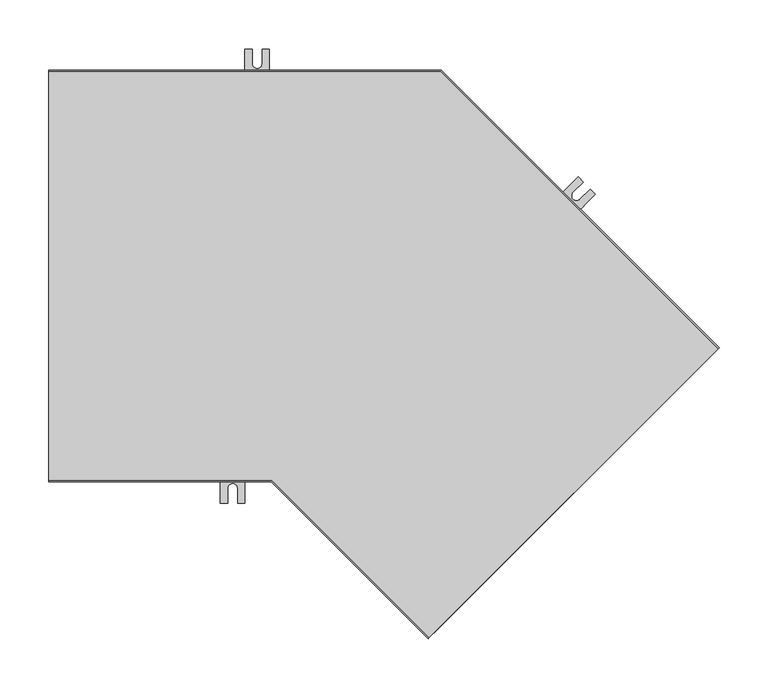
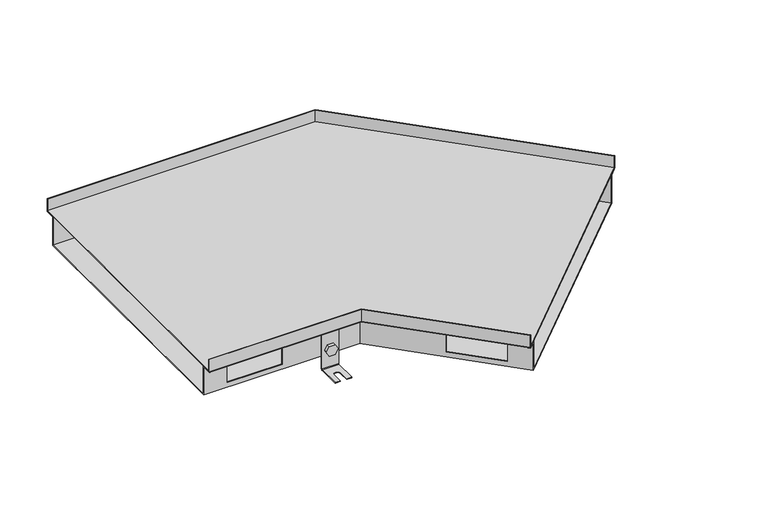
"""IFC4 building model written with IfcOpenShell, lengths in millimetres: proxy geometry, TECHNO_Угловой элемент_KVU : 420_065_135°."""

from ifc_helpers import new_model, si_unit, point, frame, frame_2d, origin, place, context, project, spatial, polyline, circle_curve, ellipse_curve, trimmed, segment, composite_curve, outline, extrude, source, transform, mapped, element, save
from ifc_brep_helpers import plane_surface, cylinder_surface, revolved_surface, advanced_brep


def mechanical_equipment_7196e186(model_context):
    return source(origin(), model_context, "Body", "SolidModel", [
        extrude(outline(composite_curve([segment(trimmed(circle_curve(frame_2d((0.0, -7.4999999)), 7.5), [point((0.0, -15.0))], [point((0.0, 0.0))], False, "CARTESIAN"), True, "CONTINUOUS"), segment(trimmed(circle_curve(frame_2d((0.0, -7.4999999)), 7.5), [point((0.0, 0.0))], [point((0.0, -15.0))], False, "CARTESIAN"), True, "CONTINUOUS")], self_intersect=False)), frame((475.1997654, -27.3757464, -55.5), z_axis=(0.7071067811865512, 0.7071067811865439, 0.0), x_axis=(0.0, 0.0, 1.0)), (0.0, 0.0, 1.0), 1.5),
        extrude(outline(polyline([(0.0, 0.0), (8.6602541, 0.0), (12.9903811, -7.5), (8.6602541, -15.0), (0.0, -15.0), (-4.330127, -7.5), (0.0, 0.0)])), frame((459.3179675, -20.4034939, -55.5), z_axis=(0.7071067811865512, 0.7071067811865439, 0.0), x_axis=(0.35355339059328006, -0.3535533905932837, -0.866025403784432)), (0.0, 0.0, 1.0), 5.1),
        advanced_brep(
        [(477.8867712, -31.7598085, -20.5), (477.8867712, -31.7598085, -83.5), (477.3210858, -32.3254939, -84.3), (453.986562, -55.6600177, -84.3), (453.986562, -55.6600177, -85.5), (477.3210858, -32.3254939, -85.5), (478.7352993, -30.9112804, -83.5), (478.7352993, -30.9112804, -20.5), (460.2091017, -14.082139, -20.5), (461.0576298, -13.2336108, -20.5), (461.0576298, -13.2336108, -83.5), (459.6434162, -14.6478244, -85.5), (436.3088924, -37.9823482, -85.5), (436.3088924, -37.9823482, -84.3), (459.6434162, -14.6478244, -84.3), (460.2091017, -14.082139, -83.5), (441.6121933, -43.285649, -84.3), (452.218795, -32.6790473, -84.3), (459.2898628, -39.7501151, -84.3), (448.6832611, -50.3567168, -84.3), (448.6832611, -50.3567168, -85.5), (441.6121933, -43.285649, -85.5), (459.2898628, -39.7501151, -85.5), (452.218795, -32.6790473, -85.5)],
        [
            (0, 1),
            (1, 2, circle_curve(frame((477.3210858, -32.3254939, -83.5), z_axis=(-0.7071067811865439, 0.7071067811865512, 0.0), x_axis=(-0.7071067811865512, -0.7071067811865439, 0.0)), 0.8)),
            (2, 3),
            (3, 4),
            (4, 5),
            (5, 6, circle_curve(frame((477.3210858, -32.3254939, -83.5), z_axis=(0.7071067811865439, -0.7071067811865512, 0.0), x_axis=(-0.7071067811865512, -0.7071067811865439, 0.0)), 2.0)),
            (6, 7),
            (7, 0),
            (8, 9),
            (9, 10),
            (10, 11, circle_curve(frame((459.6434162, -14.6478244, -83.5), z_axis=(-0.7071067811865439, 0.7071067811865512, 0.0), x_axis=(-0.7071067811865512, -0.7071067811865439, 0.0)), 2.0)),
            (11, 12),
            (12, 13),
            (13, 14),
            (14, 15, circle_curve(frame((459.6434162, -14.6478244, -83.5), z_axis=(0.7071067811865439, -0.7071067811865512, 0.0), x_axis=(-0.7071067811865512, -0.7071067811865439, 0.0)), 0.8)),
            (15, 8),
            (0, 8),
            (15, 1),
            (14, 2),
            (13, 16),
            (16, 17),
            (17, 18, circle_curve(frame((455.7543289, -36.2145812, -84.3), z_axis=(0.0, 0.0, -1.0), x_axis=(0.7071067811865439, -0.7071067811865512, 0.0)), 5.0)),
            (18, 19),
            (19, 3),
            (19, 20),
            (20, 4),
            (12, 21),
            (21, 16),
            (20, 22),
            (22, 23, circle_curve(frame((455.7543289, -36.2145812, -85.5), z_axis=(0.0, 0.0, 1.0), x_axis=(0.7071067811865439, -0.7071067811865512, 0.0)), 5.0)),
            (23, 21),
            (11, 5),
            (10, 6),
            (9, 7),
            (23, 17),
            (18, 22),
        ],
        [
            plane_surface(frame((477.8867712, -31.7598085, -20.5), z_axis=(0.7071067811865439, -0.7071067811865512, 0.0), x_axis=(0.0, 0.0, -1.0))),
            plane_surface(frame((460.2091017, -14.082139, -20.5), z_axis=(-0.7071067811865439, 0.7071067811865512, 0.0), x_axis=(0.0, 0.0, 1.0))),
            plane_surface(frame((477.8867712, -31.7598085, -20.5), z_axis=(-0.7071067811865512, -0.7071067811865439, 0.0), x_axis=(-0.7071067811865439, 0.7071067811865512, 0.0))),
            revolved_surface(polyline([(459.0777307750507, -15.213509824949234, -83.5), (476.75540032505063, -32.89117937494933, -83.5)]), (459.6434162, -14.6478244, -83.5), (-0.7071067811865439, 0.7071067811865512, 0.0)),
            plane_surface(frame((477.3210858, -32.3254939, -84.3), z_axis=(0.0, 0.0, 1.0), x_axis=(-0.7071067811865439, 0.7071067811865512, 0.0))),
            plane_surface(frame((453.986562, -55.6600177, -84.3), z_axis=(-0.7071067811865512, -0.7071067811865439, 0.0), x_axis=(-0.7071067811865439, 0.7071067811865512, 0.0))),
            plane_surface(frame((453.986562, -55.6600177, -85.5), z_axis=(0.0, 0.0, -1.0), x_axis=(-0.7071067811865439, 0.7071067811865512, 0.0))),
            cylinder_surface(frame((459.6434162, -14.6478244, -83.5), z_axis=(0.7071067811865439, -0.7071067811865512, 0.0), x_axis=(-0.7071067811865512, -0.7071067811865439, 0.0)), 2.0),
            plane_surface(frame((478.7352993, -30.9112804, -83.5), z_axis=(0.7071067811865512, 0.7071067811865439, 0.0), x_axis=(-0.7071067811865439, 0.7071067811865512, 0.0))),
            plane_surface(frame((478.7352993, -30.9112804, -20.5), z_axis=(0.0, 0.0, 1.0), x_axis=(-0.7071067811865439, 0.7071067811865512, 0.0))),
            plane_surface(frame((452.218795, -32.6790473, -84.3), z_axis=(0.7071067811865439, -0.7071067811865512, 0.0), x_axis=(0.0, 0.0, -1.0))),
            plane_surface(frame((448.6832611, -50.3567168, -84.3), z_axis=(-0.707106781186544, 0.7071067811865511, 0.0), x_axis=(0.0, 0.0, -1.0))),
            revolved_surface(polyline([(459.2898628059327, -39.75011510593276, -84.3), (459.2898628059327, -39.75011510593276, -85.5)]), (455.7543289, -36.2145812, -85.5), (0.0, 0.0, 1.0)),
        ],
        [
            (0, [[1, 2, 3, 4, 5, 6, 7, 8]]),
            (1, [[9, 10, 11, 12, 13, 14, 15, 16]]),
            (2, [[-1, 17, -16, 18]]),
            (3, [[-2, -18, -15, 19]]),
            (4, [[-3, -19, -14, 20, 21, 22, 23, 24]]),
            (5, [[-4, -24, 25, 26]]),
            (5, [[-13, 27, 28, -20]]),
            (6, [[-5, -26, 29, 30, 31, -27, -12, 32]]),
            (7, [[-6, -32, -11, 33]]),
            (8, [[-7, -33, -10, 34]]),
            (9, [[-8, -34, -9, -17]]),
            (10, [[35, -21, -28, -31]]),
            (11, [[36, -29, -25, -23]]),
            (12, [[-35, -30, -36, -22]]),
        ],
    ),
        extrude(outline(composite_curve([segment(trimmed(circle_curve(frame_2d((0.0, -7.5000001)), 7.5), [point((0.0, -15.0))], [point((0.0, 0.0))], False, "CARTESIAN"), True, "CONTINUOUS"), segment(trimmed(circle_curve(frame_2d((0.0, -7.5000001)), 7.5), [point((0.0, 0.0))], [point((0.0, -15.0))], False, "CARTESIAN"), True, "CONTINUOUS")], self_intersect=False)), frame((517.8383043, 71.831335, -55.5), z_axis=(0.7071067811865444, 0.7071067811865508, 0.0), x_axis=(0.0, 0.0, -1.0)), (0.0, 0.0, 1.0), 1.5),
        extrude(outline(polyline([(0.0, 0.0), (4.330127, -7.5), (0.0, -15.0), (-8.6602541, -15.0), (-12.9903811, -7.5), (-8.660254, 0.0), (0.0, 0.0)])), frame((531.1745178, 62.313498, -55.5), z_axis=(0.7071067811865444, 0.7071067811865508, 0.0), x_axis=(0.3535533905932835, -0.3535533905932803, 0.866025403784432)), (0.0, 0.0, 1.0), 5.1),
        advanced_brep(
        [(516.2119587, 77.2760572, -20.5), (516.2119587, 77.2760572, -83.5), (516.7776441, 77.8417426, -84.3), (540.1121679, 101.1762664, -84.3), (540.1121679, 101.1762664, -85.5), (516.7776441, 77.8417426, -85.5), (515.3634306, 76.427529, -83.5), (515.3634306, 76.427529, -20.5), (533.8896283, 59.5983876, -20.5), (533.0411001, 58.7498595, -20.5), (533.0411001, 58.7498595, -83.5), (534.4553137, 60.1640731, -85.5), (557.7898375, 83.4985968, -85.5), (557.7898375, 83.4985968, -84.3), (534.4553137, 60.1640731, -84.3), (533.8896283, 59.5983876, -83.5), (552.4865366, 88.8018977, -84.3), (541.8799349, 78.195296, -84.3), (534.8088671, 85.2663638, -84.3), (545.4154688, 95.8729655, -84.3), (545.4154688, 95.8729655, -85.5), (552.4865366, 88.8018977, -85.5), (534.8088671, 85.2663638, -85.5), (541.8799349, 78.195296, -85.5)],
        [
            (0, 1),
            (1, 2, circle_curve(frame((516.7776441, 77.8417426, -83.5), z_axis=(0.7071067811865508, -0.7071067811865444, 0.0), x_axis=(0.7071067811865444, 0.7071067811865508, 0.0)), 0.8)),
            (2, 3),
            (3, 4),
            (4, 5),
            (5, 6, circle_curve(frame((516.7776441, 77.8417426, -83.5), z_axis=(-0.7071067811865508, 0.7071067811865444, 0.0), x_axis=(0.7071067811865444, 0.7071067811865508, 0.0)), 2.0)),
            (6, 7),
            (7, 0),
            (8, 9),
            (9, 10),
            (10, 11, circle_curve(frame((534.4553137, 60.1640731, -83.5), z_axis=(0.7071067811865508, -0.7071067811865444, 0.0), x_axis=(0.7071067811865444, 0.7071067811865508, 0.0)), 2.0)),
            (11, 12),
            (12, 13),
            (13, 14),
            (14, 15, circle_curve(frame((534.4553137, 60.1640731, -83.5), z_axis=(-0.7071067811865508, 0.7071067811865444, 0.0), x_axis=(0.7071067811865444, 0.7071067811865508, 0.0)), 0.8)),
            (15, 8),
            (0, 8),
            (15, 1),
            (14, 2),
            (13, 16),
            (16, 17),
            (17, 18, circle_curve(frame((538.344401, 81.7308299, -84.3), z_axis=(0.0, 0.0, -1.0), x_axis=(-0.7071067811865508, 0.7071067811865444, 0.0)), 5.0)),
            (18, 19),
            (19, 3),
            (19, 20),
            (20, 4),
            (12, 21),
            (21, 16),
            (20, 22),
            (22, 23, circle_curve(frame((538.344401, 81.7308299, -85.5), z_axis=(0.0, 0.0, 1.0), x_axis=(-0.7071067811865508, 0.7071067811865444, 0.0)), 5.0)),
            (23, 21),
            (11, 5),
            (10, 6),
            (9, 7),
            (23, 17),
            (18, 22),
        ],
        [
            plane_surface(frame((516.2119587, 77.2760572, -20.5), z_axis=(-0.7071067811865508, 0.7071067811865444, 0.0), x_axis=(0.0, 0.0, -1.0))),
            plane_surface(frame((533.8896283, 59.5983876, -20.5), z_axis=(0.7071067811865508, -0.7071067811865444, 0.0), x_axis=(0.0, 0.0, 1.0))),
            plane_surface(frame((516.2119587, 77.2760572, -20.5), z_axis=(0.7071067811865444, 0.7071067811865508, 0.0), x_axis=(0.7071067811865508, -0.7071067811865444, 0.0))),
            revolved_surface(polyline([(535.0209991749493, 60.72975847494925, -83.5), (517.3433295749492, 78.4074280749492, -83.5)]), (534.4553137, 60.1640731, -83.5), (0.7071067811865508, -0.7071067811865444, 0.0)),
            plane_surface(frame((516.7776441, 77.8417426, -84.3), z_axis=(0.0, 0.0, 1.0000000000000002), x_axis=(0.7071067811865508, -0.7071067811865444, 0.0))),
            plane_surface(frame((540.1121679, 101.1762664, -84.3), z_axis=(0.7071067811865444, 0.7071067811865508, 0.0), x_axis=(0.7071067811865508, -0.7071067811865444, 0.0))),
            plane_surface(frame((540.1121679, 101.1762664, -85.5), z_axis=(0.0, 0.0, -1.0000000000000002), x_axis=(0.7071067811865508, -0.7071067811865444, 0.0))),
            cylinder_surface(frame((534.4553137, 60.1640731, -83.5), z_axis=(-0.7071067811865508, 0.7071067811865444, 0.0), x_axis=(0.7071067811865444, 0.7071067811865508, 0.0)), 2.0),
            plane_surface(frame((515.3634306, 76.427529, -83.5), z_axis=(-0.7071067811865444, -0.7071067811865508, 0.0), x_axis=(0.7071067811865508, -0.7071067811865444, 0.0))),
            plane_surface(frame((515.3634306, 76.427529, -20.5), z_axis=(0.0, 0.0, 1.0000000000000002), x_axis=(0.7071067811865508, -0.7071067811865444, 0.0))),
            plane_surface(frame((541.8799349, 78.195296, -84.3), z_axis=(-0.7071067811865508, 0.7071067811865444, 0.0), x_axis=(0.0, 0.0, -1.0))),
            plane_surface(frame((545.4154688, 95.8729655, -84.3), z_axis=(0.7071067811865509, -0.7071067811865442, 0.0), x_axis=(0.0, 0.0, -1.0))),
            revolved_surface(polyline([(534.8088670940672, 85.26636380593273, -84.3), (534.8088670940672, 85.26636380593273, -85.5)]), (538.344401, 81.7308299, -85.5), (0.0, 0.0, 1.0)),
        ],
        [
            (0, [[1, 2, 3, 4, 5, 6, 7, 8]]),
            (1, [[9, 10, 11, 12, 13, 14, 15, 16]]),
            (2, [[-1, 17, -16, 18]]),
            (3, [[-2, -18, -15, 19]]),
            (4, [[-3, -19, -14, 20, 21, 22, 23, 24]]),
            (5, [[-4, -24, 25, 26]]),
            (5, [[-13, 27, 28, -20]]),
            (6, [[-5, -26, 29, 30, 31, -27, -12, 32]]),
            (7, [[-6, -32, -11, 33]]),
            (8, [[-7, -33, -10, 34]]),
            (9, [[-8, -34, -9, -17]]),
            (10, [[35, -21, -28, -31]]),
            (11, [[36, -29, -25, -23]]),
            (12, [[-35, -30, -36, -22]]),
        ],
    ),
        extrude(outline(composite_curve([segment(trimmed(circle_curve(frame_2d((-55.5, 212.5)), 7.5), [point((-55.5, 205.0))], [point((-55.5, 220.0))], False, "CARTESIAN"), True, "CONTINUOUS"), segment(trimmed(circle_curve(frame_2d((-55.5, 212.5)), 7.5), [point((-55.5, 220.0))], [point((-55.5, 205.0))], False, "CARTESIAN"), True, "CONTINUOUS")], self_intersect=False)), frame((0.0, 195.2, 0.0), z_axis=(0.0, 1.0, 0.0), x_axis=(0.0, 0.0, 1.0)), (0.0, 0.0, 1.0), 1.5),
        extrude(outline(polyline([(-55.5, 203.839746), (-63.0, 208.169873), (-63.0, 216.830127), (-55.5, 221.160254), (-48.0, 216.830127), (-48.0, 208.169873), (-55.5, 203.839746)])), frame((0.0, 197.9, 0.0), z_axis=(0.0, 1.0, 0.0), x_axis=(0.0, 0.0, 1.0)), (0.0, 0.0, 1.0), 5.1),
        advanced_brep(
        [(225.0, 197.9, -20.5), (225.0, 196.7, -20.5), (225.0, 196.7, -83.5), (225.0, 198.7, -85.5), (225.0, 231.7, -85.5), (225.0, 231.7, -84.3), (225.0, 198.7, -84.3), (225.0, 197.9, -83.5), (200.0, 197.9, -20.5), (200.0, 197.9, -83.5), (200.0, 198.7, -84.3), (200.0, 231.7, -84.3), (200.0, 231.7, -85.5), (200.0, 198.7, -85.5), (200.0, 196.7, -83.5), (200.0, 196.7, -20.5), (217.5, 231.7, -84.3), (217.5, 216.7, -84.3), (207.5, 216.7, -84.3), (207.5, 231.7, -84.3), (207.5, 231.7, -85.5), (217.5, 231.7, -85.5), (207.5, 216.7, -85.5), (217.5, 216.7, -85.5)],
        [
            (0, 1),
            (1, 2),
            (2, 3, circle_curve(frame((225.0, 198.7, -83.5), z_axis=(1.0, 0.0, 0.0), x_axis=(0.0, 1.0, 0.0)), 2.0)),
            (3, 4),
            (4, 5),
            (5, 6),
            (6, 7, circle_curve(frame((225.0, 198.7, -83.5), z_axis=(-1.0, 0.0, 0.0), x_axis=(0.0, 1.0, 0.0)), 0.8)),
            (7, 0),
            (8, 9),
            (9, 10, circle_curve(frame((200.0, 198.7, -83.5), z_axis=(1.0, 0.0, 0.0), x_axis=(0.0, 1.0, 0.0)), 0.8)),
            (10, 11),
            (11, 12),
            (12, 13),
            (13, 14, circle_curve(frame((200.0, 198.7, -83.5), z_axis=(-1.0, 0.0, 0.0), x_axis=(0.0, 1.0, 0.0)), 2.0)),
            (14, 15),
            (15, 8),
            (7, 9),
            (8, 0),
            (6, 10),
            (5, 16),
            (16, 17),
            (17, 18, circle_curve(frame((212.5, 216.7, -84.3), z_axis=(0.0, 0.0, -1.0), x_axis=(1.0, 0.0, 0.0)), 5.0)),
            (18, 19),
            (19, 11),
            (19, 20),
            (20, 12),
            (4, 21),
            (21, 16),
            (3, 13),
            (20, 22),
            (22, 23, circle_curve(frame((212.5, 216.7, -85.5), z_axis=(0.0, 0.0, 1.0), x_axis=(1.0, 0.0, 0.0)), 5.0)),
            (23, 21),
            (2, 14),
            (1, 15),
            (18, 22),
            (23, 17),
        ],
        [
            plane_surface(frame((225.0, 197.9, -20.5), z_axis=(1.0, 0.0, 0.0), x_axis=(0.0, 0.0, -1.0))),
            plane_surface(frame((200.0, 197.9, -20.5), z_axis=(-1.0, 0.0, 0.0), x_axis=(0.0, 0.0, 1.0))),
            plane_surface(frame((225.0, 197.9, -20.5), z_axis=(0.0, 1.0, 0.0), x_axis=(-1.0, 0.0, 0.0))),
            revolved_surface(polyline([(200.0, 199.5, -83.5), (225.0, 199.5, -83.5)]), (200.0, 198.7, -83.5), (-1.0, 0.0, 0.0)),
            plane_surface(frame((225.0, 198.7, -84.3), z_axis=(0.0, 0.0, 1.0), x_axis=(-1.0, 0.0, 0.0))),
            plane_surface(frame((225.0, 231.7, -84.3), z_axis=(0.0, 1.0, 0.0), x_axis=(-1.0, 0.0, 0.0))),
            plane_surface(frame((225.0, 231.7, -85.5), z_axis=(0.0, 0.0, -1.0), x_axis=(-1.0, 0.0, 0.0))),
            cylinder_surface(frame((200.0, 198.7, -83.5), z_axis=(1.0, 0.0, 0.0), x_axis=(0.0, 1.0, 0.0)), 2.0),
            plane_surface(frame((225.0, 196.7, -83.5), z_axis=(0.0, -1.0, 0.0), x_axis=(-1.0, 0.0, 0.0))),
            plane_surface(frame((225.0, 196.7, -20.5), z_axis=(0.0, 0.0, 1.0), x_axis=(-1.0, 0.0, 0.0))),
            plane_surface(frame((207.5, 216.7, -84.3), z_axis=(1.0, 0.0, 0.0), x_axis=(0.0, 0.0, -1.0))),
            plane_surface(frame((217.5, 231.7, -84.3), z_axis=(-1.0, 0.0, 0.0), x_axis=(0.0, 0.0, -1.0))),
            revolved_surface(polyline([(217.5, 216.7, -84.3), (217.5, 216.7, -85.5)]), (212.5, 216.7, -85.5), (0.0, 0.0, 1.0)),
        ],
        [
            (0, [[1, 2, 3, 4, 5, 6, 7, 8]]),
            (1, [[9, 10, 11, 12, 13, 14, 15, 16]]),
            (2, [[17, -9, 18, -8]]),
            (3, [[19, -10, -17, -7]]),
            (4, [[20, 21, 22, 23, 24, -11, -19, -6]]),
            (5, [[-24, 25, 26, -12]]),
            (5, [[27, 28, -20, -5]]),
            (6, [[29, -13, -26, 30, 31, 32, -27, -4]]),
            (7, [[33, -14, -29, -3]]),
            (8, [[34, -15, -33, -2]]),
            (9, [[-18, -16, -34, -1]]),
            (10, [[-30, -25, -23, 35]]),
            (11, [[-21, -28, -32, 36]]),
            (12, [[-22, -36, -31, -35]]),
        ],
    ),
        extrude(outline(composite_curve([segment(trimmed(circle_curve(frame_2d((-55.5, 187.5)), 7.5), [point((-55.5, 180.0))], [point((-55.5, 195.0))], False, "CARTESIAN"), True, "CONTINUOUS"), segment(trimmed(circle_curve(frame_2d((-55.5, 187.5)), 7.5), [point((-55.5, 195.0))], [point((-55.5, 180.0))], False, "CARTESIAN"), True, "CONTINUOUS")], self_intersect=False)), frame((0.0, -196.7, 0.0), z_axis=(0.0, 1.0, 0.0), x_axis=(0.0, 0.0, 1.0)), (0.0, 0.0, 1.0), 1.5),
        extrude(outline(polyline([(-55.5, 178.839746), (-63.0, 183.169873), (-63.0, 191.830127), (-55.5, 196.160254), (-48.0, 191.830127), (-48.0, 183.169873), (-55.5, 178.839746)])), frame((0.0, -203.0, 0.0), z_axis=(0.0, 1.0, 0.0), x_axis=(0.0, 0.0, 1.0)), (0.0, 0.0, 1.0), 5.1),
        advanced_brep(
        [(200.0, -197.9, -20.5), (200.0, -197.9, -83.5), (200.0, -198.7, -84.3), (200.0, -231.7, -84.3), (200.0, -231.7, -85.5), (200.0, -198.7, -85.5), (200.0, -196.7, -83.5), (200.0, -196.7, -20.5), (175.0, -197.9, -20.5), (175.0, -196.7, -20.5), (175.0, -196.7, -83.5), (175.0, -198.7, -85.5), (175.0, -231.7, -85.5), (175.0, -231.7, -84.3), (175.0, -198.7, -84.3), (175.0, -197.9, -83.5), (182.5, -231.7, -84.3), (182.5, -216.7, -84.3), (192.5, -216.7, -84.3), (192.5, -231.7, -84.3), (192.5, -231.7, -85.5), (182.5, -231.7, -85.5), (192.5, -216.7, -85.5), (182.5, -216.7, -85.5)],
        [
            (0, 1),
            (1, 2, circle_curve(frame((200.0, -198.7, -83.5), z_axis=(-1.0, 0.0, 0.0), x_axis=(0.0, -1.0, 0.0)), 0.8)),
            (2, 3),
            (3, 4),
            (4, 5),
            (5, 6, circle_curve(frame((200.0, -198.7, -83.5), z_axis=(1.0, 0.0, 0.0), x_axis=(0.0, -1.0, 0.0)), 2.0)),
            (6, 7),
            (7, 0),
            (8, 9),
            (9, 10),
            (10, 11, circle_curve(frame((175.0, -198.7, -83.5), z_axis=(-1.0, 0.0, 0.0), x_axis=(0.0, -1.0, 0.0)), 2.0)),
            (11, 12),
            (12, 13),
            (13, 14),
            (14, 15, circle_curve(frame((175.0, -198.7, -83.5), z_axis=(1.0, 0.0, 0.0), x_axis=(0.0, -1.0, 0.0)), 0.8)),
            (15, 8),
            (0, 8),
            (15, 1),
            (14, 2),
            (13, 16),
            (16, 17),
            (17, 18, circle_curve(frame((187.5, -216.7, -84.3), z_axis=(0.0, 0.0, -1.0), x_axis=(1.0, 0.0, 0.0)), 5.0)),
            (18, 19),
            (19, 3),
            (19, 20),
            (20, 4),
            (12, 21),
            (21, 16),
            (20, 22),
            (22, 23, circle_curve(frame((187.5, -216.7, -85.5), z_axis=(0.0, 0.0, 1.0), x_axis=(1.0, 0.0, 0.0)), 5.0)),
            (23, 21),
            (11, 5),
            (10, 6),
            (9, 7),
            (23, 17),
            (18, 22),
        ],
        [
            plane_surface(frame((200.0, -197.9, -20.5), z_axis=(1.0, 0.0, 0.0), x_axis=(0.0, 0.0, -1.0))),
            plane_surface(frame((175.0, -197.9, -20.5), z_axis=(-1.0, 0.0, 0.0), x_axis=(0.0, 0.0, 1.0))),
            plane_surface(frame((200.0, -197.9, -20.5), z_axis=(0.0, -1.0, 0.0), x_axis=(-1.0, 0.0, 0.0))),
            revolved_surface(polyline([(175.0, -199.5, -83.5), (200.0, -199.5, -83.5)]), (175.0, -198.7, -83.5), (-1.0, 0.0, 0.0)),
            plane_surface(frame((200.0, -198.7, -84.3), z_axis=(0.0, 0.0, 1.0), x_axis=(-1.0, 0.0, 0.0))),
            plane_surface(frame((200.0, -231.7, -84.3), z_axis=(0.0, -1.0, 0.0), x_axis=(-1.0, 0.0, 0.0))),
            plane_surface(frame((200.0, -231.7, -85.5), z_axis=(0.0, 0.0, -1.0), x_axis=(-1.0, 0.0, 0.0))),
            cylinder_surface(frame((175.0, -198.7, -83.5), z_axis=(1.0, 0.0, 0.0), x_axis=(0.0, -1.0, 0.0)), 2.0),
            plane_surface(frame((200.0, -196.7, -83.5), z_axis=(0.0, 1.0, 0.0), x_axis=(-1.0, 0.0, 0.0))),
            plane_surface(frame((200.0, -196.7, -20.5), z_axis=(0.0, 0.0, 1.0), x_axis=(-1.0, 0.0, 0.0))),
            plane_surface(frame((182.5, -216.7, -84.3), z_axis=(1.0, 0.0, 0.0), x_axis=(0.0, 0.0, -1.0))),
            plane_surface(frame((192.5, -231.7, -84.3), z_axis=(-1.0, 0.0, 0.0), x_axis=(0.0, 0.0, -1.0))),
            revolved_surface(polyline([(192.5, -216.7, -84.3), (192.5, -216.7, -85.5)]), (187.5, -216.7, -85.5), (0.0, 0.0, 1.0)),
        ],
        [
            (0, [[1, 2, 3, 4, 5, 6, 7, 8]]),
            (1, [[9, 10, 11, 12, 13, 14, 15, 16]]),
            (2, [[-1, 17, -16, 18]]),
            (3, [[-2, -18, -15, 19]]),
            (4, [[-3, -19, -14, 20, 21, 22, 23, 24]]),
            (5, [[-4, -24, 25, 26]]),
            (5, [[-13, 27, 28, -20]]),
            (6, [[-5, -26, 29, 30, 31, -27, -12, 32]]),
            (7, [[-6, -32, -11, 33]]),
            (8, [[-7, -33, -10, 34]]),
            (9, [[-8, -34, -9, -17]]),
            (10, [[35, -21, -28, -31]]),
            (11, [[36, -29, -25, -23]]),
            (12, [[-35, -30, -36, -22]]),
        ],
    ),
        extrude(outline(polyline([(683.0184484, -74.1155047), (387.7306566, -369.4032965), (227.1273601, -208.8), (0.0, -208.8), (0.0, 208.8), (400.1029437, 208.8), (683.0184484, -74.1155047)])), frame((0.0, 0.0, -19.3), z_axis=(0.0, 0.0, 1.0), x_axis=(1.0, 0.0, 0.0)), (0.0, 0.0, 1.0), 1.2),
        advanced_brep(
        [(386.8821284, -370.2518246, -19.3), (387.7306566, -369.4032965, -20.5), (397.3473088, -359.7866443, -20.5), (397.3473088, -359.7866443, -65.0), (673.4017962, -83.7321569, -65.0), (673.4017962, -83.7321569, -20.5), (683.0184484, -74.1155047, -20.5), (683.8669765, -73.2669765, -19.3), (683.8669765, -73.2669765, 0.0), (683.0184484, -74.1155047, 0.0), (683.0184484, -74.1155047, -19.3), (673.4017962, -83.7321569, -19.3), (672.553268, -84.580685, -20.5), (672.553268, -84.580685, -63.8), (398.1958369, -358.9381161, -63.8), (398.1958369, -358.9381161, -20.5), (397.3473088, -359.7866443, -19.3), (387.7306566, -369.4032965, -19.3), (387.7306566, -369.4032965, 0.0), (386.8821284, -370.2518246, 0.0), (0.0, -210.0, -19.3), (0.0, -210.0, 0.0), (0.0, -208.8, 0.0), (0.0, -208.8, -19.3), (0.0, -195.2, -19.3), (0.0, -194.0, -20.5), (0.0, -194.0, -63.8), (0.0, 194.0, -63.8), (0.0, 194.0, -20.5), (0.0, 195.2, -19.3), (0.0, 208.8, -19.3), (0.0, 208.8, 0.0), (0.0, 210.0, 0.0), (0.0, 210.0, -19.3), (0.0, 208.8, -20.5), (0.0, 195.2, -20.5), (0.0, 195.2, -65.0), (0.0, -195.2, -65.0), (0.0, -195.2, -20.5), (0.0, -208.8, -20.5), (227.1273601, -208.8, -20.5), (226.6303038, -210.0, -19.3), (227.1273601, -208.8, 0.0), (227.1273601, -208.8, -19.3), (232.7606645, -195.2, -65.0), (232.7606645, -195.2, -20.5), (35.0, -195.2, -25.2), (117.0, -195.2, -25.2), (117.0, -195.2, -57.2), (35.0, -195.2, -57.2), (233.2577208, -194.0, -20.5), (233.2577208, -194.0, -63.8), (117.0, -194.0, -25.2), (35.0, -194.0, -25.2), (35.0, -194.0, -57.2), (117.0, -194.0, -57.2), (232.7606645, -195.2, -19.3), (314.6158154, -277.0551509, -25.2), (372.5985715, -335.0379069, -25.2), (372.5985715, -335.0379069, -57.2), (314.6158154, -277.0551509, -57.2), (394.4696393, 195.2, -65.0), (393.972583, 194.0, -63.8), (373.4470996, -334.1893788, -25.2), (315.4643435, -276.2066227, -25.2), (315.4643435, -276.2066227, -57.2), (373.4470996, -334.1893788, -57.2), (226.6303038, -210.0, 0.0), (394.4696393, 195.2, -20.5), (648.6530588, -58.9834196, -25.2), (590.6703028, -1.0006635, -25.2), (590.6703028, -1.0006635, -57.2), (648.6530588, -58.9834196, -57.2), (400.1029437, 208.8, -20.5), (400.6, 210.0, -19.3), (400.6, 210.0, 0.0), (400.1029437, 208.8, 0.0), (400.1029437, 208.8, -19.3), (394.4696393, 195.2, -19.3), (393.972583, 194.0, -20.5), (589.8217746, -1.8491916, -25.2), (647.8045307, -59.8319477, -25.2), (647.8045307, -59.8319477, -57.2), (589.8217746, -1.8491916, -57.2), (117.0, 195.2, -25.2), (35.0, 195.2, -25.2), (35.0, 195.2, -57.2), (117.0, 195.2, -57.2), (35.0, 194.0, -25.2), (117.0, 194.0, -25.2), (117.0, 194.0, -57.2), (35.0, 194.0, -57.2)],
        [
            (0, 1, circle_curve(frame((387.7306566, -369.4032965, -19.3), z_axis=(0.7071067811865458, -0.7071067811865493, 0.0), x_axis=(-0.7071067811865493, -0.7071067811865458, 0.0)), 1.2)),
            (1, 2),
            (2, 3),
            (3, 4),
            (4, 5),
            (5, 6),
            (6, 7, circle_curve(frame((683.0184484, -74.1155047, -19.3), z_axis=(0.7071067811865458, -0.7071067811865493, 0.0), x_axis=(-0.7071067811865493, -0.7071067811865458, 0.0)), 1.2)),
            (7, 8),
            (8, 9),
            (9, 10),
            (10, 11),
            (11, 12, circle_curve(frame((673.4017962, -83.7321569, -20.5), z_axis=(0.7071067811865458, -0.7071067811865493, 0.0), x_axis=(-0.7071067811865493, -0.7071067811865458, 0.0)), 1.2)),
            (12, 13),
            (13, 14),
            (14, 15),
            (15, 16, circle_curve(frame((397.3473088, -359.7866443, -20.5), z_axis=(0.7071067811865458, -0.7071067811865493, 0.0), x_axis=(-0.7071067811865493, -0.7071067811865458, 0.0)), 1.2)),
            (16, 17),
            (17, 18),
            (18, 19),
            (19, 0),
            (20, 21),
            (21, 22),
            (22, 23),
            (23, 24),
            (24, 25, circle_curve(frame((0.0, -195.2, -20.5), z_axis=(-1.0, 0.0, 0.0), x_axis=(0.0, -1.0, 0.0)), 1.2)),
            (25, 26),
            (26, 27),
            (27, 28),
            (28, 29, circle_curve(frame((0.0, 195.2, -20.5), z_axis=(-1.0, 0.0, 0.0), x_axis=(0.0, -1.0, 0.0)), 1.2)),
            (29, 30),
            (30, 31),
            (31, 32),
            (32, 33),
            (33, 34, circle_curve(frame((0.0, 208.8, -19.3), z_axis=(-1.0, 0.0, 0.0), x_axis=(0.0, -1.0, 0.0)), 1.2)),
            (34, 35),
            (35, 36),
            (36, 37),
            (37, 38),
            (38, 39),
            (39, 20, circle_curve(frame((0.0, -208.8, -19.3), z_axis=(-1.0, 0.0, 0.0), x_axis=(0.0, -1.0, 0.0)), 1.2)),
            (39, 40),
            (40, 41, ellipse_curve(frame((227.1273601, -208.8, -19.3), z_axis=(-0.9238795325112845, 0.38268343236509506, 0.0), x_axis=(0.38268343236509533, 0.9238795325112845, 0.0)), 1.2988706, 1.2)),
            (41, 20),
            (22, 42),
            (42, 43),
            (43, 23),
            (37, 44),
            (44, 45),
            (45, 38),
            (46, 47),
            (47, 48),
            (48, 49),
            (49, 46),
            (25, 50),
            (50, 51),
            (51, 26),
            (52, 53),
            (53, 54),
            (54, 55),
            (55, 52),
            (24, 56),
            (56, 50, ellipse_curve(frame((232.7606645, -195.2, -20.5), z_axis=(-0.9238795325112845, 0.38268343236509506, 0.0), x_axis=(0.38268343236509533, 0.9238795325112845, 0.0)), 1.2988706, 1.2)),
            (0, 41),
            (40, 1),
            (45, 2),
            (44, 3),
            (57, 58),
            (58, 59),
            (59, 60),
            (60, 57),
            (36, 61),
            (61, 4),
            (13, 62),
            (62, 27),
            (51, 14),
            (50, 15),
            (63, 64),
            (64, 65),
            (65, 66),
            (66, 63),
            (56, 16),
            (43, 17),
            (42, 18),
            (21, 67),
            (67, 19),
            (61, 68),
            (68, 5),
            (69, 70),
            (70, 71),
            (71, 72),
            (72, 69),
            (68, 35),
            (34, 73),
            (73, 6),
            (73, 74, ellipse_curve(frame((400.1029437, 208.8, -19.3), z_axis=(0.9238795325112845, -0.38268343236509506, 0.0), x_axis=(-0.38268343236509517, -0.9238795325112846, 0.0)), 1.2988706, 1.2)),
            (74, 7),
            (74, 75),
            (75, 8),
            (75, 32),
            (31, 76),
            (76, 9),
            (76, 77),
            (77, 10),
            (77, 30),
            (29, 78),
            (78, 11),
            (78, 79, ellipse_curve(frame((394.4696393, 195.2, -20.5), z_axis=(0.9238795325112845, -0.38268343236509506, 0.0), x_axis=(-0.38268343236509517, -0.9238795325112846, 0.0)), 1.2988706, 1.2)),
            (79, 12),
            (79, 62),
            (80, 81),
            (81, 82),
            (82, 83),
            (83, 80),
            (84, 85),
            (85, 86),
            (86, 87),
            (87, 84),
            (33, 74),
            (28, 79),
            (88, 89),
            (89, 90),
            (90, 91),
            (91, 88),
            (41, 67),
            (46, 53),
            (52, 47),
            (88, 85),
            (84, 89),
            (49, 54),
            (91, 86),
            (48, 55),
            (90, 87),
            (57, 64),
            (63, 58),
            (80, 70),
            (69, 81),
            (66, 59),
            (72, 82),
            (65, 60),
            (71, 83),
        ],
        [
            plane_surface(frame((535.3745525, -221.7594006, 0.0), z_axis=(0.7071067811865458, -0.7071067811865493, 0.0), x_axis=(0.0, 0.0, 1.0))),
            plane_surface(frame((0.0, 0.0, 0.0), z_axis=(-1.0, 0.0, 0.0), x_axis=(0.0, 0.0, 1.0))),
            cylinder_surface(frame((313.6151519, -208.8, -19.3), z_axis=(1.0, 0.0, 0.0), x_axis=(0.0, -1.0, 0.0)), 1.2),
            plane_surface(frame((227.1273601, -208.8, -19.3), z_axis=(0.0, 1.0, 0.0), x_axis=(-1.0, 0.0, 0.0))),
            plane_surface(frame((232.7606645, -195.2, -20.5), z_axis=(0.0, -1.0, 0.0), x_axis=(-1.0, 0.0, 0.0))),
            plane_surface(frame((233.2577208, -194.0, -63.8), z_axis=(0.0, 1.0, 0.0), x_axis=(-1.0, 0.0, 0.0))),
            cylinder_surface(frame((313.6151519, -195.2, -20.5), z_axis=(1.0, 0.0, 0.0), x_axis=(0.0, -1.0, 0.0)), 1.2),
            cylinder_surface(frame((387.7306566, -369.4032965, -19.3), z_axis=(0.7071067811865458, -0.7071067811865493, 0.0), x_axis=(-0.7071067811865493, -0.7071067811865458, 0.0)), 1.2),
            plane_surface(frame((387.7306566, -369.4032965, -20.5), z_axis=(0.0, 0.0, -1.0), x_axis=(-0.7071067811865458, 0.7071067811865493, 0.0))),
            plane_surface(frame((397.3473088, -359.7866443, -20.5), z_axis=(-0.7071067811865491, -0.7071067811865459, 0.0), x_axis=(-0.7071067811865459, 0.7071067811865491, 0.0))),
            plane_surface(frame((397.3473088, -359.7866443, -65.0), z_axis=(0.0, 0.0, -1.0000000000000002), x_axis=(-0.7071067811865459, 0.7071067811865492, 0.0))),
            plane_surface(frame((672.553268, -84.580685, -63.8), z_axis=(0.0, 0.0, 1.0), x_axis=(-0.7071067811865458, 0.7071067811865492, 0.0))),
            plane_surface(frame((398.1958369, -358.9381161, -63.8), z_axis=(0.7071067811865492, 0.7071067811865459, 0.0), x_axis=(-0.7071067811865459, 0.7071067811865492, 0.0))),
            cylinder_surface(frame((397.3473088, -359.7866443, -20.5), z_axis=(0.7071067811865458, -0.7071067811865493, 0.0), x_axis=(-0.7071067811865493, -0.7071067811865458, 0.0)), 1.2),
            plane_surface(frame((397.3473088, -359.7866443, -19.3), z_axis=(0.0, 0.0, 1.0), x_axis=(-0.7071067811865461, 0.7071067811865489, 0.0))),
            plane_surface(frame((387.7306566, -369.4032965, -19.3), z_axis=(0.7071067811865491, 0.7071067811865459, 0.0), x_axis=(-0.7071067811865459, 0.7071067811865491, 0.0))),
            plane_surface(frame((387.7306566, -369.4032965, 0.0), z_axis=(0.0, 0.0, 1.0), x_axis=(-0.7071067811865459, 0.7071067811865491, 0.0))),
            plane_surface(frame((673.4017962, -83.7321569, -65.0), z_axis=(0.7071067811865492, 0.7071067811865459, 0.0), x_axis=(-0.7071067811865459, 0.7071067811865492, 0.0))),
            plane_surface(frame((673.4017962, -83.7321569, -20.5), z_axis=(0.0, 0.0, -1.0), x_axis=(-0.707106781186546, 0.707106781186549, 0.0))),
            cylinder_surface(frame((683.0184484, -74.1155047, -19.3), z_axis=(0.7071067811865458, -0.7071067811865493, 0.0), x_axis=(-0.7071067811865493, -0.7071067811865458, 0.0)), 1.2),
            plane_surface(frame((683.8669765, -73.2669765, -19.3), z_axis=(0.7071067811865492, 0.7071067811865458, 0.0), x_axis=(-0.7071067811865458, 0.7071067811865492, 0.0))),
            plane_surface(frame((683.8669765, -73.2669765, 0.0), z_axis=(0.0, 0.0, 1.0), x_axis=(-0.7071067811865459, 0.7071067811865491, 0.0))),
            plane_surface(frame((683.0184484, -74.1155047, 0.0), z_axis=(-0.7071067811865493, -0.7071067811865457, 0.0), x_axis=(-0.7071067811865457, 0.7071067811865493, 0.0))),
            plane_surface(frame((683.0184484, -74.1155047, -19.3), z_axis=(0.0, 0.0, 1.0), x_axis=(-0.7071067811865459, 0.7071067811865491, 0.0))),
            cylinder_surface(frame((673.4017962, -83.7321569, -20.5), z_axis=(0.7071067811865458, -0.7071067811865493, 0.0), x_axis=(-0.7071067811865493, -0.7071067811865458, 0.0)), 1.2),
            plane_surface(frame((672.553268, -84.580685, -20.5), z_axis=(-0.7071067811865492, -0.7071067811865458, 0.0), x_axis=(-0.7071067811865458, 0.7071067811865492, 0.0))),
            plane_surface(frame((394.4696393, 195.2, -65.0), z_axis=(0.0, 1.0, 0.0), x_axis=(-1.0, 0.0, 0.0))),
            cylinder_surface(frame((313.6151519, 208.8, -19.3), z_axis=(1.0, 0.0, 0.0), x_axis=(0.0, -1.0, 0.0)), 1.2),
            plane_surface(frame((400.6, 210.0, -19.3), z_axis=(0.0, 1.0, 0.0), x_axis=(-1.0, 0.0, 0.0))),
            plane_surface(frame((400.1029437, 208.8, 0.0), z_axis=(0.0, -1.0, 0.0), x_axis=(-1.0, 0.0, 0.0))),
            cylinder_surface(frame((313.6151519, 195.2, -20.5), z_axis=(1.0, 0.0, 0.0), x_axis=(0.0, -1.0, 0.0)), 1.2),
            plane_surface(frame((393.972583, 194.0, -20.5), z_axis=(0.0, -1.0, 0.0), x_axis=(-1.0, 0.0, 0.0))),
            plane_surface(frame((226.6303038, -210.0, 0.0), z_axis=(0.0, -1.0, 0.0), x_axis=(-1.0, 0.0, 0.0))),
            plane_surface(frame((386.8821284, -370.2518246, 0.0), z_axis=(-0.7071067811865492, -0.7071067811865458, 0.0), x_axis=(-0.7071067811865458, 0.7071067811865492, 0.0))),
            plane_surface(frame((35.0, 210.0, -25.2), z_axis=(0.0, 0.0, -1.0), x_axis=(0.0, -1.0, 0.0))),
            plane_surface(frame((35.0, 210.0, -57.2), z_axis=(1.0, 0.0, 0.0), x_axis=(0.0, -1.0, 0.0))),
            plane_surface(frame((117.0, 210.0, -57.2), z_axis=(0.0, 0.0, 1.0), x_axis=(0.0, -1.0, 0.0))),
            plane_surface(frame((117.0, 210.0, -25.2), z_axis=(-1.0, 0.0, 0.0), x_axis=(0.0, -1.0, 0.0))),
            plane_surface(frame((601.1354831, 9.4645169, -25.2), z_axis=(0.0, 0.0, -1.0), x_axis=(-0.7071067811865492, -0.7071067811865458, 0.0))),
            plane_surface(frame((659.1182392, -48.5182392, -25.2), z_axis=(-0.7071067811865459, 0.7071067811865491, 0.0), x_axis=(-0.7071067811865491, -0.7071067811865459, 0.0))),
            plane_surface(frame((659.1182392, -48.5182392, -57.2), z_axis=(0.0, 0.0, 1.0), x_axis=(-0.7071067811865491, -0.7071067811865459, 0.0))),
            plane_surface(frame((601.1354831, 9.4645169, -57.2), z_axis=(0.7071067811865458, -0.7071067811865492, 0.0), x_axis=(-0.7071067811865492, -0.7071067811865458, 0.0))),
        ],
        [
            (0, [[1, 2, 3, 4, 5, 6, 7, 8, 9, 10, 11, 12, 13, 14, 15, 16, 17, 18, 19, 20]]),
            (1, [[21, 22, 23, 24, 25, 26, 27, 28, 29, 30, 31, 32, 33, 34, 35, 36, 37, 38, 39, 40]]),
            (2, [[-40, 41, 42, 43]]),
            (3, [[-23, 44, 45, 46]]),
            (4, [[-38, 47, 48, 49], [50, 51, 52, 53]]),
            (5, [[-26, 54, 55, 56], [57, 58, 59, 60]]),
            (6, [[-25, 61, 62, -54]]),
            (7, [[-1, 63, -42, 64]]),
            (8, [[-2, -64, -41, -39, -49, 65]]),
            (9, [[-3, -65, -48, 66], [67, 68, 69, 70]]),
            (10, [[-4, -66, -47, -37, 71, 72]]),
            (11, [[-14, 73, 74, -27, -56, 75]]),
            (12, [[-15, -75, -55, 76], [77, 78, 79, 80]]),
            (13, [[-16, -76, -62, 81]]),
            (14, [[-17, -81, -61, -24, -46, 82]]),
            (15, [[-18, -82, -45, 83]]),
            (16, [[-19, -83, -44, -22, 84, 85]]),
            (17, [[-5, -72, 86, 87], [88, 89, 90, 91]]),
            (18, [[-6, -87, 92, -35, 93, 94]]),
            (19, [[-7, -94, 95, 96]]),
            (20, [[-8, -96, 97, 98]]),
            (21, [[-9, -98, 99, -32, 100, 101]]),
            (22, [[-10, -101, 102, 103]]),
            (23, [[-11, -103, 104, -30, 105, 106]]),
            (24, [[-12, -106, 107, 108]]),
            (25, [[-13, -108, 109, -73], [110, 111, 112, 113]]),
            (26, [[-36, -92, -86, -71], [114, 115, 116, 117]]),
            (27, [[-34, 118, -95, -93]]),
            (28, [[-33, -99, -97, -118]]),
            (29, [[-31, -104, -102, -100]]),
            (30, [[-29, 119, -107, -105]]),
            (31, [[-28, -74, -109, -119], [120, 121, 122, 123]]),
            (32, [[-21, -43, 124, -84]]),
            (33, [[-20, -85, -124, -63]]),
            (34, [[125, -57, 126, -50]]),
            (34, [[127, -114, 128, -120]]),
            (35, [[-125, -53, 129, -58]]),
            (35, [[-127, -123, 130, -115]]),
            (36, [[-129, -52, 131, -59]]),
            (36, [[-130, -122, 132, -116]]),
            (37, [[-131, -51, -126, -60]]),
            (37, [[-132, -121, -128, -117]]),
            (38, [[133, -77, 134, -67]]),
            (38, [[135, -88, 136, -110]]),
            (39, [[-134, -80, 137, -68]]),
            (39, [[-136, -91, 138, -111]]),
            (40, [[-137, -79, 139, -69]]),
            (40, [[-138, -90, 140, -112]]),
            (41, [[-133, -70, -139, -78]]),
            (41, [[-135, -113, -140, -89]]),
        ],
    ),
    ])


if __name__ == "__main__":
    model = new_model("IFC4")
    model_context = context("Model", 3, world=origin())
    ifc_project = project(units=[si_unit("LENGTHUNIT", "METRE", prefix="MILLI")], contexts=[model_context])
    site = spatial("IfcSite", under=ifc_project)
    building = spatial("IfcBuilding", under=site)
    placement = place(None, origin())
    mechanical_equipment_shape = mechanical_equipment_7196e186(model_context)
    element("IfcBuildingElementProxy", 1, Name="TECHNO_Угловой элемент_KVU : 420_065_135°", ObjectType="TECHNO_Угловой элемент_KVU : 420_065_135°", at=placement, inside=building, context=model_context, shape_type="MappedRepresentation", body=[
        mapped(mechanical_equipment_shape, transform((0.0, 0.0, 0.0), x_axis=(1.0, 0.0, 0.0), y_axis=(0.0, 1.0, 0.0), z_axis=(0.0, 0.0, 1.0))),
    ])
    save(model, "model.ifc")
